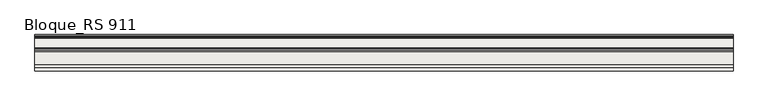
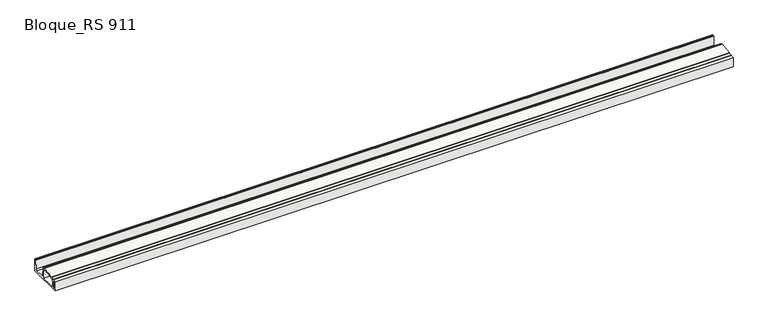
"""IFC4 building model written with IfcOpenShell, lengths in millimetres: slab geometry, ROSA GRES_RS 911 : Bloque_RS 911."""

from ifc_helpers import new_model, si_unit, point, frame, frame_2d, origin, place, context, project, spatial, polyline, circle_curve, trimmed, segment, composite_curve, outline, extrude, source, transform, mapped, element, save


def bloque_rs_911_f1c9a022(model_context):
    return source(origin(), model_context, "Body", "SweptSolid", [
        extrude(outline(composite_curve([segment(polyline([(12.836227, 1.7539108), (12.836227, 171.9333029), (67.836227, 176.4100471), (67.836227, 173.8170239), (72.836227, 173.8170239), (72.836227, 176.8170239), (125.1172881, 181.0724591), (123.836227, 196.8112099), (343.836227, 214.7181867), (343.836227, 216.3460936), (363.836227, 216.3460936), (363.836227, 206.3460936), (381.836227, 206.3460936), (393.5484732, 55.2086635)]), True, "CONTINUOUS"), segment(trimmed(circle_curve(frame_2d((413.4886891, 56.7539108)), 20.0), [point((393.5484732, 55.2086635))], [point((413.4886891, 36.7539108))], True, "CARTESIAN"), True, "CONTINUOUS"), segment(polyline([(413.4886891, 36.7539108), (567.1837649, 36.7539108)]), True, "CONTINUOUS"), segment(trimmed(circle_curve(frame_2d((567.1837649, 56.7539108)), 20.0), [point((567.1837649, 36.7539108))], [point((587.1239808, 55.2086635))], True, "CARTESIAN"), True, "CONTINUOUS"), segment(polyline([(587.1239808, 55.2086635), (598.836227, 206.3460936), (616.836227, 206.3460936), (616.836227, 216.3460936), (626.836227, 216.3460936), (626.836227, 1.7539108), (12.836227, 1.7539108)]), True, "CONTINUOUS")], self_intersect=False), holes=[composite_curve([segment(trimmed(circle_curve(frame_2d((59.836227, 140.6431347)), 8.0), [point((67.836227, 140.6431347))], [point((59.1872106, 148.6167648))], True, "CARTESIAN"), True, "CONTINUOUS"), segment(polyline([(59.1872106, 148.6167648), (47.1872106, 147.6400206)]), True, "CONTINUOUS"), segment(trimmed(circle_curve(frame_2d((47.836227, 139.6663905)), 8.0), [point((47.1872106, 147.6400206))], [point((39.836227, 139.6663905))], True, "CARTESIAN"), True, "CONTINUOUS"), segment(polyline([(39.836227, 139.6663905), (39.836227, 36.7539108)]), True, "CONTINUOUS"), segment(trimmed(circle_curve(frame_2d((47.836227, 36.7539108)), 8.0), [point((39.836227, 36.7539108))], [point((47.836227, 28.7539108))], True, "CARTESIAN"), True, "CONTINUOUS"), segment(polyline([(47.836227, 28.7539108), (59.836227, 28.7539108)]), True, "CONTINUOUS"), segment(trimmed(circle_curve(frame_2d((59.836227, 36.7539108)), 8.0), [point((59.836227, 28.7539108))], [point((67.836227, 36.7539108))], True, "CARTESIAN"), True, "CONTINUOUS"), segment(polyline([(67.836227, 36.7539108), (67.836227, 140.6431347)]), True, "CONTINUOUS")], self_intersect=False), composite_curve([segment(trimmed(circle_curve(frame_2d((187.3063127, 84.534333)), 85.0), [point((180.4105134, 169.2541533))], [point((102.3063127, 84.534333))], True, "CARTESIAN"), True, "CONTINUOUS"), segment(polyline([(102.3063127, 84.534333), (102.3063127, 28.7539108), (356.3063127, 28.7539108), (356.3063127, 161.8772036)]), True, "CONTINUOUS"), segment(trimmed(circle_curve(frame_2d((336.3063127, 161.8772036)), 20.0), [point((356.3063127, 161.8772036))], [point((334.6837717, 181.811279))], True, "CARTESIAN"), True, "CONTINUOUS"), segment(polyline([(334.6837717, 181.811279), (180.4105134, 169.2541533)]), True, "CONTINUOUS")], self_intersect=False)]), frame((0.0, 0.0, 0.0), z_axis=(1.0, 0.0, 0.0), x_axis=(0.0, 1.0, 0.0)), (0.0, 0.0, 1.0), 11762.4049789),
    ])


if __name__ == "__main__":
    model = new_model("IFC4")
    model_context = context("Model", 3, world=origin())
    ifc_project = project(units=[si_unit("LENGTHUNIT", "METRE", prefix="MILLI")], contexts=[model_context])
    site = spatial("IfcSite", under=ifc_project)
    building = spatial("IfcBuilding", under=site)
    placement = place(None, origin())
    bloque_rs_911_shape = bloque_rs_911_f1c9a022(model_context)
    element("IfcSlab", 1, ObjectType="ROSA GRES_RS 911 : Bloque_RS 911", at=placement, inside=building, context=model_context, shape_type="MappedRepresentation", body=[
        mapped(bloque_rs_911_shape, transform((0.0, 0.0, 0.0), x_axis=(1.0, 0.0, 0.0), y_axis=(0.0, 1.0, 0.0), z_axis=(0.0, 0.0, 1.0))),
    ])
    save(model, "model.ifc")
